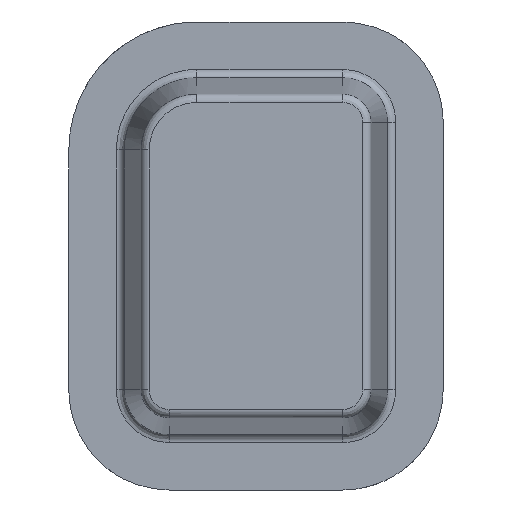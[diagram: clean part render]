
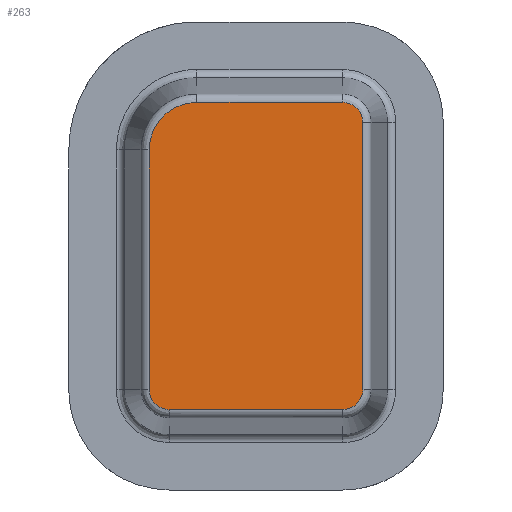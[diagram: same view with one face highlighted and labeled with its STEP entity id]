
A CAD part, front view. The second image highlights one B-rep face of the part: STEP entity #263.
In plain terms, the highlighted planar face has unit normal (0, -1, 0).
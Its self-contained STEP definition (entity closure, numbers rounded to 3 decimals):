
#144=CARTESIAN_POINT('Axis2P3D Location',(42.58,0.,57.42)) ;
#149=CARTESIAN_POINT('Line Origine',(2.749,0.,53.5)) ;
#153=CARTESIAN_POINT('Vertex',(2.749,0.,97.)) ;
#155=CARTESIAN_POINT('Vertex',(2.749,0.,10.)) ;
#159=CARTESIAN_POINT('Control Point',(2.749,0.,10.)) ;
#160=CARTESIAN_POINT('Control Point',(2.749,0.,9.039)) ;
#161=CARTESIAN_POINT('Control Point',(2.908,0.,8.077)) ;
#162=CARTESIAN_POINT('Control Point',(3.227,0.,7.153)) ;
#163=CARTESIAN_POINT('Control Point',(4.157,0.,5.443)) ;
#164=CARTESIAN_POINT('Control Point',(5.588,0.,4.125)) ;
#165=CARTESIAN_POINT('Control Point',(6.407,0.,3.591)) ;
#166=CARTESIAN_POINT('Control Point',(7.598,0.,3.072)) ;
#167=CARTESIAN_POINT('Control Point',(8.858,0.,2.829)) ;
#168=CARTESIAN_POINT('Control Point',(9.177,0.,2.785)) ;
#169=CARTESIAN_POINT('Control Point',(9.534,0.,2.756)) ;
#170=CARTESIAN_POINT('Control Point',(9.891,0.,2.75)) ;
#171=CARTESIAN_POINT('Control Point',(9.927,0.,2.749)) ;
#172=CARTESIAN_POINT('Control Point',(9.964,0.,2.749)) ;
#173=CARTESIAN_POINT('Control Point',(10.,0.,2.749)) ;
#174=CARTESIAN_POINT('Vertex',(10.,0.,2.749)) ;
#177=CARTESIAN_POINT('Line Origine',(41.5,0.,2.749)) ;
#181=CARTESIAN_POINT('Vertex',(73.,0.,2.749)) ;
#185=CARTESIAN_POINT('Control Point',(73.,0.,2.749)) ;
#186=CARTESIAN_POINT('Control Point',(73.961,0.,2.749)) ;
#187=CARTESIAN_POINT('Control Point',(74.923,0.,2.908)) ;
#188=CARTESIAN_POINT('Control Point',(75.847,0.,3.227)) ;
#189=CARTESIAN_POINT('Control Point',(77.557,0.,4.157)) ;
#190=CARTESIAN_POINT('Control Point',(78.875,0.,5.588)) ;
#191=CARTESIAN_POINT('Control Point',(79.409,0.,6.407)) ;
#192=CARTESIAN_POINT('Control Point',(79.928,0.,7.598)) ;
#193=CARTESIAN_POINT('Control Point',(80.171,0.,8.858)) ;
#194=CARTESIAN_POINT('Control Point',(80.215,0.,9.177)) ;
#195=CARTESIAN_POINT('Control Point',(80.244,0.,9.534)) ;
#196=CARTESIAN_POINT('Control Point',(80.25,0.,9.891)) ;
#197=CARTESIAN_POINT('Control Point',(80.251,0.,9.927)) ;
#198=CARTESIAN_POINT('Control Point',(80.251,0.,9.964)) ;
#199=CARTESIAN_POINT('Control Point',(80.251,0.,10.)) ;
#200=CARTESIAN_POINT('Vertex',(80.251,0.,10.)) ;
#203=CARTESIAN_POINT('Line Origine',(80.251,0.,58.5)) ;
#207=CARTESIAN_POINT('Vertex',(80.251,0.,107.)) ;
#211=CARTESIAN_POINT('Control Point',(80.251,0.,107.)) ;
#212=CARTESIAN_POINT('Control Point',(80.251,0.,107.961)) ;
#213=CARTESIAN_POINT('Control Point',(80.092,0.,108.923)) ;
#214=CARTESIAN_POINT('Control Point',(79.773,0.,109.847)) ;
#215=CARTESIAN_POINT('Control Point',(78.843,0.,111.557)) ;
#216=CARTESIAN_POINT('Control Point',(77.412,0.,112.875)) ;
#217=CARTESIAN_POINT('Control Point',(76.593,0.,113.409)) ;
#218=CARTESIAN_POINT('Control Point',(75.402,0.,113.928)) ;
#219=CARTESIAN_POINT('Control Point',(74.142,0.,114.171)) ;
#220=CARTESIAN_POINT('Control Point',(73.823,0.,114.215)) ;
#221=CARTESIAN_POINT('Control Point',(73.466,0.,114.244)) ;
#222=CARTESIAN_POINT('Control Point',(73.109,0.,114.25)) ;
#223=CARTESIAN_POINT('Control Point',(73.073,0.,114.251)) ;
#224=CARTESIAN_POINT('Control Point',(73.036,0.,114.251)) ;
#225=CARTESIAN_POINT('Control Point',(73.,0.,114.251)) ;
#226=CARTESIAN_POINT('Vertex',(73.,0.,114.251)) ;
#229=CARTESIAN_POINT('Line Origine',(46.5,0.,114.251)) ;
#233=CARTESIAN_POINT('Vertex',(20.,0.,114.251)) ;
#237=CARTESIAN_POINT('Control Point',(20.,0.,114.251)) ;
#238=CARTESIAN_POINT('Control Point',(18.077,0.,114.251)) ;
#239=CARTESIAN_POINT('Control Point',(16.154,0.,113.983)) ;
#240=CARTESIAN_POINT('Control Point',(14.282,0.,113.447)) ;
#241=CARTESIAN_POINT('Control Point',(10.736,0.,111.869)) ;
#242=CARTESIAN_POINT('Control Point',(7.758,0.,109.383)) ;
#243=CARTESIAN_POINT('Control Point',(6.451,0.,107.938)) ;
#244=CARTESIAN_POINT('Control Point',(4.493,0.,105.046)) ;
#245=CARTESIAN_POINT('Control Point',(3.313,0.,101.768)) ;
#246=CARTESIAN_POINT('Control Point',(2.954,0.,100.259)) ;
#247=CARTESIAN_POINT('Control Point',(2.762,0.,98.685)) ;
#248=CARTESIAN_POINT('Control Point',(2.749,0.,97.109)) ;
#249=CARTESIAN_POINT('Control Point',(2.749,0.,97.073)) ;
#250=CARTESIAN_POINT('Control Point',(2.749,0.,97.037)) ;
#251=CARTESIAN_POINT('Control Point',(2.749,0.,97.)) ;
#145=DIRECTION('Axis2P3D Direction',(0.,-1.,0.)) ;
#146=DIRECTION('Axis2P3D XDirection',(0.082,0.,0.997)) ;
#150=DIRECTION('Vector Direction',(0.,0.,1.)) ;
#178=DIRECTION('Vector Direction',(1.,0.,0.)) ;
#204=DIRECTION('Vector Direction',(0.,0.,1.)) ;
#230=DIRECTION('Vector Direction',(-1.,0.,0.)) ;
#147=AXIS2_PLACEMENT_3D('Plane Axis2P3D',#144,#145,#146) ;
#254=ORIENTED_EDGE('',*,*,#157,.T.) ;
#255=ORIENTED_EDGE('',*,*,#176,.T.) ;
#256=ORIENTED_EDGE('',*,*,#183,.T.) ;
#257=ORIENTED_EDGE('',*,*,#202,.T.) ;
#258=ORIENTED_EDGE('',*,*,#209,.T.) ;
#259=ORIENTED_EDGE('',*,*,#228,.T.) ;
#260=ORIENTED_EDGE('',*,*,#235,.T.) ;
#261=ORIENTED_EDGE('',*,*,#252,.T.) ;
#151=VECTOR('Line Direction',#150,1.) ;
#179=VECTOR('Line Direction',#178,1.) ;
#205=VECTOR('Line Direction',#204,1.) ;
#231=VECTOR('Line Direction',#230,1.) ;
#263=ADVANCED_FACE('base',(#262),#148,.T.) ;
#158=B_SPLINE_CURVE_WITH_KNOTS('',5,(#159,#160,#161,#162,#163,#164,#165,#166,#167,#168,#169,#170,#171,#172,#173),.UNSPECIFIED.,.F.,.U.,(6,3,3,3,6),(28.919,39.144,49.373,52.783,53.17),.UNSPECIFIED.) ;
#184=B_SPLINE_CURVE_WITH_KNOTS('',5,(#185,#186,#187,#188,#189,#190,#191,#192,#193,#194,#195,#196,#197,#198,#199),.UNSPECIFIED.,.F.,.U.,(6,3,3,3,6),(28.919,39.143,49.373,52.782,53.17),.UNSPECIFIED.) ;
#210=B_SPLINE_CURVE_WITH_KNOTS('',5,(#211,#212,#213,#214,#215,#216,#217,#218,#219,#220,#221,#222,#223,#224,#225),.UNSPECIFIED.,.F.,.U.,(6,3,3,3,6),(28.919,39.143,49.373,52.782,53.17),.UNSPECIFIED.) ;
#236=B_SPLINE_CURVE_WITH_KNOTS('',5,(#237,#238,#239,#240,#241,#242,#243,#244,#245,#246,#247,#248,#249,#250,#251),.UNSPECIFIED.,.F.,.U.,(6,3,3,3,6),(40.94,57.165,73.41,86.398,86.706),.UNSPECIFIED.) ;
#157=EDGE_CURVE('',#154,#156,#152,.F.) ;
#176=EDGE_CURVE('',#156,#175,#158,.T.) ;
#183=EDGE_CURVE('',#175,#182,#180,.T.) ;
#202=EDGE_CURVE('',#182,#201,#184,.T.) ;
#209=EDGE_CURVE('',#201,#208,#206,.T.) ;
#228=EDGE_CURVE('',#208,#227,#210,.T.) ;
#235=EDGE_CURVE('',#227,#234,#232,.T.) ;
#252=EDGE_CURVE('',#234,#154,#236,.T.) ;
#253=EDGE_LOOP('',(#254,#255,#256,#257,#258,#259,#260,#261)) ;
#262=FACE_OUTER_BOUND('',#253,.T.) ;
#152=LINE('Line',#149,#151) ;
#180=LINE('Line',#177,#179) ;
#206=LINE('Line',#203,#205) ;
#232=LINE('Line',#229,#231) ;
#148=PLANE('',#147) ;
#154=VERTEX_POINT('',#153) ;
#156=VERTEX_POINT('',#155) ;
#175=VERTEX_POINT('',#174) ;
#182=VERTEX_POINT('',#181) ;
#201=VERTEX_POINT('',#200) ;
#208=VERTEX_POINT('',#207) ;
#227=VERTEX_POINT('',#226) ;
#234=VERTEX_POINT('',#233) ;
